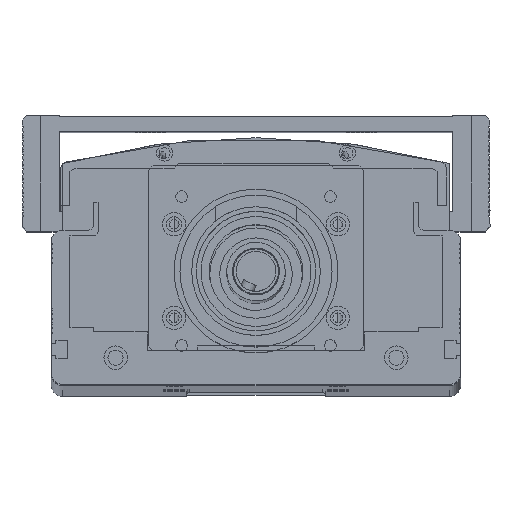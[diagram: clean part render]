
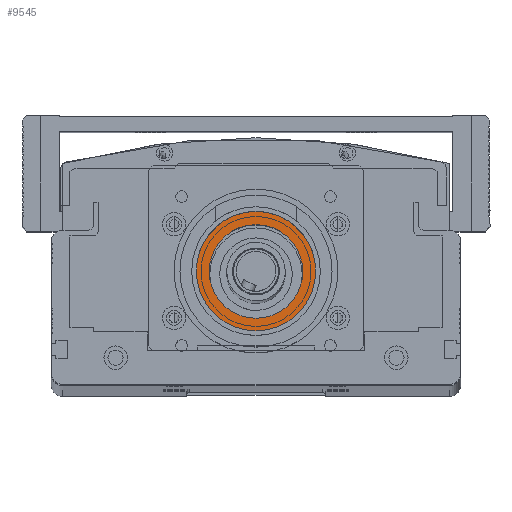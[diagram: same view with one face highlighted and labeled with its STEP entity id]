
A CAD part, top view. The second image highlights one B-rep face of the part: STEP entity #9545.
In plain terms, the highlighted planar face has unit normal (0, 0, 1) as drawn and (0, 0, -1) by its records, which use the part's own axes.
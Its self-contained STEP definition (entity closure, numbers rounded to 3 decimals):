
#1012 = ORIENTED_EDGE ( 'NONE', *, *, #20286, .T. ) ;
#1309 = AXIS2_PLACEMENT_3D ( 'NONE', #6604, #31521, #10141 ) ;
#1504 = AXIS2_PLACEMENT_3D ( 'NONE', #26398, #5100, #30050 ) ;
#2733 = PLANE ( 'NONE',  #8506 ) ;
#4132 = ORIENTED_EDGE ( 'NONE', *, *, #8338, .F. ) ;
#4481 = LINE ( 'NONE', #26985, #20034 ) ;
#5100 = DIRECTION ( 'NONE',  ( 0., 0., -1. ) ) ;
#5430 = EDGE_LOOP ( 'NONE', ( #18149, #35120, #38425, #1012, #29150, #4132 ) ) ;
#5665 = CARTESIAN_POINT ( 'NONE',  ( 46., 34., 87. ) ) ;
#6604 = CARTESIAN_POINT ( 'NONE',  ( 46., 34., 87. ) ) ;
#7277 = CARTESIAN_POINT ( 'NONE',  ( 46., 34., 87. ) ) ;
#8200 = ORIENTED_EDGE ( 'NONE', *, *, #31865, .F. ) ;
#8265 = VECTOR ( 'NONE', #29303, 1000. ) ;
#8338 = EDGE_CURVE ( 'NONE', #10537, #13391, #17689, .T. ) ;
#8506 = AXIS2_PLACEMENT_3D ( 'NONE', #45546, #38330, #27680 ) ;
#8685 = DIRECTION ( 'NONE',  ( 0., 0., -1. ) ) ;
#9249 = DIRECTION ( 'NONE',  ( -1., 0., 0. ) ) ;
#9545 = ADVANCED_FACE ( 'NONE', ( #26505, #34939 ), #2733, .T. ) ;
#10141 = DIRECTION ( 'NONE',  ( -1., 0., 0. ) ) ;
#10537 = VERTEX_POINT ( 'NONE', #35394 ) ;
#10818 = DIRECTION ( 'NONE',  ( -1., 0., 0. ) ) ;
#12836 = DIRECTION ( 'NONE',  ( 1., 0., 0. ) ) ;
#13391 = VERTEX_POINT ( 'NONE', #31489 ) ;
#14050 = CIRCLE ( 'NONE', #44164, 20. ) ;
#16741 = EDGE_CURVE ( 'NONE', #31300, #26022, #37028, .T. ) ;
#17555 = EDGE_CURVE ( 'NONE', #10537, #31300, #29113, .T. ) ;
#17689 = LINE ( 'NONE', #39907, #8265 ) ;
#18127 = CARTESIAN_POINT ( 'NONE',  ( 28.5, 49., 87. ) ) ;
#18149 = ORIENTED_EDGE ( 'NONE', *, *, #17555, .T. ) ;
#19688 = VERTEX_POINT ( 'NONE', #43393 ) ;
#19946 = CARTESIAN_POINT ( 'NONE',  ( 20.5, 34., 87. ) ) ;
#20034 = VECTOR ( 'NONE', #12836, 1000. ) ;
#20046 = AXIS2_PLACEMENT_3D ( 'NONE', #5665, #30609, #9249 ) ;
#20108 = AXIS2_PLACEMENT_3D ( 'NONE', #30055, #8685, #33642 ) ;
#20217 = CARTESIAN_POINT ( 'NONE',  ( 28.5, 52.547, 87. ) ) ;
#20286 = EDGE_CURVE ( 'NONE', #39477, #19688, #37033, .T. ) ;
#21162 = CIRCLE ( 'NONE', #20046, 25.5 ) ;
#21712 = DIRECTION ( 'NONE',  ( 0., 1., 0. ) ) ;
#25420 = CIRCLE ( 'NONE', #1504, 20. ) ;
#26022 = VERTEX_POINT ( 'NONE', #19946 ) ;
#26398 = CARTESIAN_POINT ( 'NONE',  ( 46., 34., 87. ) ) ;
#26505 = FACE_OUTER_BOUND ( 'NONE', #5430, .T. ) ;
#26985 = CARTESIAN_POINT ( 'NONE',  ( 28.5, 79., 87. ) ) ;
#27680 = DIRECTION ( 'NONE',  ( -1., 0., 0. ) ) ;
#28694 = ORIENTED_EDGE ( 'NONE', *, *, #41742, .F. ) ;
#29113 = CIRCLE ( 'NONE', #20108, 25.5 ) ;
#29150 = ORIENTED_EDGE ( 'NONE', *, *, #38732, .T. ) ;
#29303 = DIRECTION ( 'NONE',  ( 0., 1., 0. ) ) ;
#30050 = DIRECTION ( 'NONE',  ( -1., 0., 0. ) ) ;
#30055 = CARTESIAN_POINT ( 'NONE',  ( 46., 34., 87. ) ) ;
#30609 = DIRECTION ( 'NONE',  ( 0., 0., -1. ) ) ;
#31300 = VERTEX_POINT ( 'NONE', #36005 ) ;
#31489 = CARTESIAN_POINT ( 'NONE',  ( 63.5, 79., 87. ) ) ;
#31521 = DIRECTION ( 'NONE',  ( 0., 0., -1. ) ) ;
#31865 = EDGE_CURVE ( 'NONE', #44255, #41077, #14050, .T. ) ;
#32183 = DIRECTION ( 'NONE',  ( 0., 0., -1. ) ) ;
#33642 = DIRECTION ( 'NONE',  ( -1., 0., 0. ) ) ;
#34939 = FACE_BOUND ( 'NONE', #41698, .T. ) ;
#35120 = ORIENTED_EDGE ( 'NONE', *, *, #16741, .T. ) ;
#35394 = CARTESIAN_POINT ( 'NONE',  ( 63.5, 52.547, 87. ) ) ;
#36005 = CARTESIAN_POINT ( 'NONE',  ( 71.5, 34., 87. ) ) ;
#36833 = CARTESIAN_POINT ( 'NONE',  ( 66., 34., 87. ) ) ;
#37028 = CIRCLE ( 'NONE', #1309, 25.5 ) ;
#37033 = LINE ( 'NONE', #18127, #46064 ) ;
#38330 = DIRECTION ( 'NONE',  ( 0., 0., -1. ) ) ;
#38425 = ORIENTED_EDGE ( 'NONE', *, *, #38719, .T. ) ;
#38719 = EDGE_CURVE ( 'NONE', #26022, #39477, #21162, .T. ) ;
#38732 = EDGE_CURVE ( 'NONE', #19688, #13391, #4481, .T. ) ;
#39477 = VERTEX_POINT ( 'NONE', #20217 ) ;
#39907 = CARTESIAN_POINT ( 'NONE',  ( 63.5, 49., 87. ) ) ;
#41077 = VERTEX_POINT ( 'NONE', #36833 ) ;
#41698 = EDGE_LOOP ( 'NONE', ( #8200, #28694 ) ) ;
#41742 = EDGE_CURVE ( 'NONE', #41077, #44255, #25420, .T. ) ;
#43393 = CARTESIAN_POINT ( 'NONE',  ( 28.5, 79., 87. ) ) ;
#43800 = CARTESIAN_POINT ( 'NONE',  ( 26., 34., 87. ) ) ;
#44164 = AXIS2_PLACEMENT_3D ( 'NONE', #7277, #32183, #10818 ) ;
#44255 = VERTEX_POINT ( 'NONE', #43800 ) ;
#45546 = CARTESIAN_POINT ( 'NONE',  ( 46., 34., 87. ) ) ;
#46064 = VECTOR ( 'NONE', #21712, 1000. ) ;
